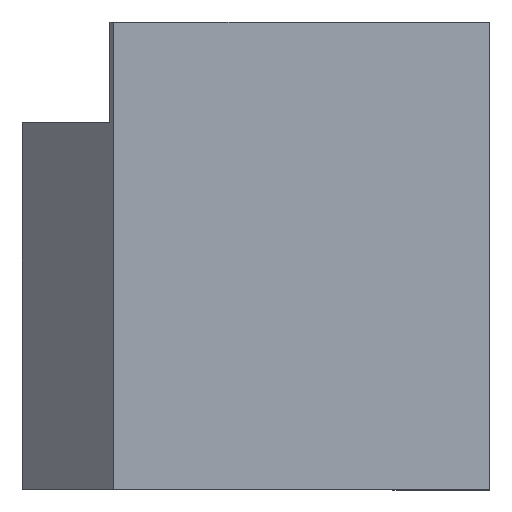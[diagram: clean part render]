
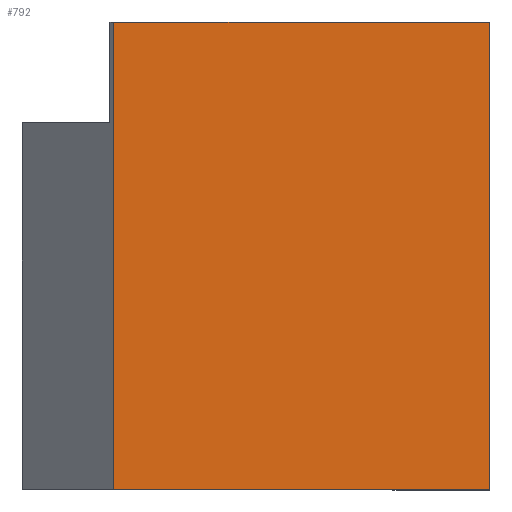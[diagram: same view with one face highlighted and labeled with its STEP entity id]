
A CAD part, top view. The second image highlights one B-rep face of the part: STEP entity #792.
In plain terms, the highlighted planar face has unit normal (0, 0, 1).
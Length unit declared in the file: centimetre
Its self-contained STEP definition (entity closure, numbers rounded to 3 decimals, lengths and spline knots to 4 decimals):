
#8 = CARTESIAN_POINT ( 'NONE',  ( 0., 0., 1000. ) ) ;
#43 = CARTESIAN_POINT ( 'NONE',  ( 0., 0., 1000. ) ) ;
#62 = CARTESIAN_POINT ( 'NONE',  ( 1000., 1000., 1000. ) ) ;
#119 = EDGE_CURVE ( 'NONE', #920, #342, #324, .T. ) ;
#153 = VECTOR ( 'NONE', #820, 100. ) ;
#170 = EDGE_CURVE ( 'NONE', #672, #926, #567, .T. ) ;
#184 = EDGE_CURVE ( 'NONE', #342, #672, #322, .T. ) ;
#221 = CARTESIAN_POINT ( 'NONE',  ( 195.4919, 0., 1000. ) ) ;
#253 = ORIENTED_EDGE ( 'NONE', *, *, #617, .T. ) ;
#285 = CARTESIAN_POINT ( 'NONE',  ( 195.4919, 0., 1000. ) ) ;
#322 = LINE ( 'NONE', #987, #1050 ) ;
#324 = LINE ( 'NONE', #62, #914 ) ;
#342 = VERTEX_POINT ( 'NONE', #1008 ) ;
#349 = DIRECTION ( 'NONE',  ( 0., 0., 1. ) ) ;
#388 = ORIENTED_EDGE ( 'NONE', *, *, #170, .T. ) ;
#417 = FACE_OUTER_BOUND ( 'NONE', #674, .T. ) ;
#475 = VECTOR ( 'NONE', #903, 100. ) ;
#497 = DIRECTION ( 'NONE',  ( 0., 1., 0. ) ) ;
#563 = CARTESIAN_POINT ( 'NONE',  ( 195.4919, 1000., 1000. ) ) ;
#567 = LINE ( 'NONE', #221, #475 ) ;
#574 = DIRECTION ( 'NONE',  ( -1., 0., 0. ) ) ;
#617 = EDGE_CURVE ( 'NONE', #926, #920, #657, .T. ) ;
#657 = LINE ( 'NONE', #43, #153 ) ;
#672 = VERTEX_POINT ( 'NONE', #563 ) ;
#674 = EDGE_LOOP ( 'NONE', ( #985, #388, #253, #1088 ) ) ;
#684 = DIRECTION ( 'NONE',  ( 1., 0., 0. ) ) ;
#766 = PLANE ( 'NONE',  #1048 ) ;
#792 = ADVANCED_FACE ( 'NONE', ( #417 ), #766, .T. ) ;
#820 = DIRECTION ( 'NONE',  ( 1., 0., 0. ) ) ;
#903 = DIRECTION ( 'NONE',  ( 0., -1., 0. ) ) ;
#914 = VECTOR ( 'NONE', #497, 100. ) ;
#920 = VERTEX_POINT ( 'NONE', #1035 ) ;
#926 = VERTEX_POINT ( 'NONE', #285 ) ;
#985 = ORIENTED_EDGE ( 'NONE', *, *, #184, .T. ) ;
#987 = CARTESIAN_POINT ( 'NONE',  ( 0., 1000., 1000. ) ) ;
#1008 = CARTESIAN_POINT ( 'NONE',  ( 1000., 1000., 1000. ) ) ;
#1035 = CARTESIAN_POINT ( 'NONE',  ( 1000., 0., 1000. ) ) ;
#1048 = AXIS2_PLACEMENT_3D ( 'NONE', #8, #349, #684 ) ;
#1050 = VECTOR ( 'NONE', #574, 100. ) ;
#1088 = ORIENTED_EDGE ( 'NONE', *, *, #119, .T. ) ;
